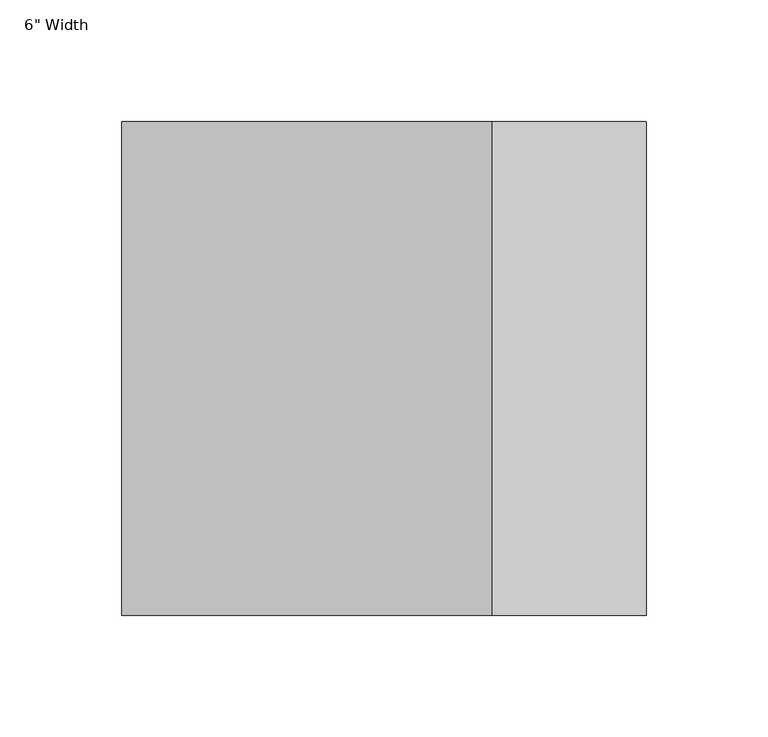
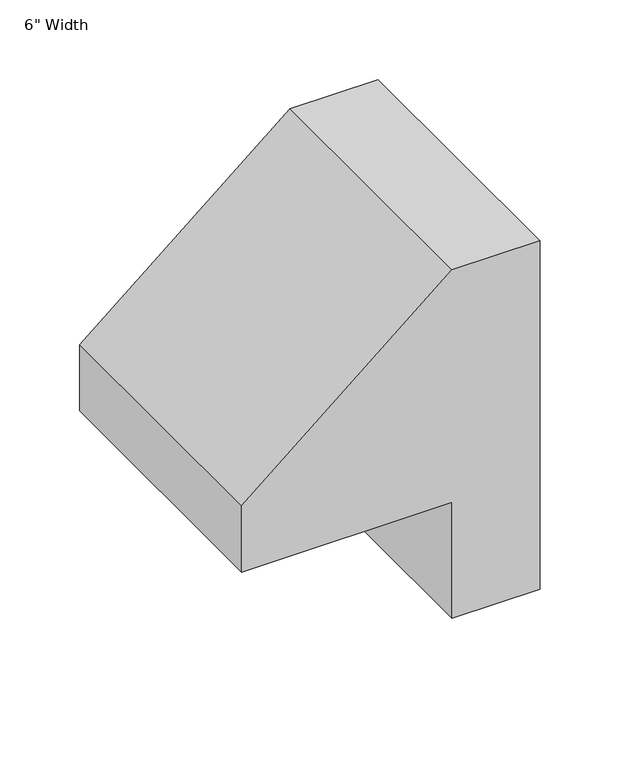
"""IFC4 building model written with IfcOpenShell, lengths in millimetres: proxy geometry."""

from ifc_helpers import new_model, si_unit, frame, origin, place, context, project, spatial, polyline, outline, extrude, source, transform, mapped, element, save


def proxy_f84e95d0(model_context):
    return source(origin(), model_context, "Body", "SweptSolid", [
        extrude(outline(polyline([(-88.9, 76.2), (-88.9, 139.7), (177.8, 139.7), (177.8, 76.2), (50.8, -76.2), (0.0, -76.2), (0.0, 76.2), (-88.9, 76.2)])), frame((0.0, -101.6, 0.0), z_axis=(0.0, 1.0, 0.0), x_axis=(0.0, 0.0, 1.0)), (0.0, 0.0, 1.0), 203.2),
    ])


if __name__ == "__main__":
    model = new_model("IFC4")
    model_context = context("Model", 3, world=origin())
    ifc_project = project(units=[si_unit("LENGTHUNIT", "METRE", prefix="MILLI")], contexts=[model_context])
    site = spatial("IfcSite", under=ifc_project)
    building = spatial("IfcBuilding", under=site)
    placement = place(None, origin())
    proxy_shape = proxy_f84e95d0(model_context)
    element("IfcBuildingElementProxy", 1, Name="Cabinet_Connector-Wallduct-Wiremold : 6\" Width", ObjectType="Cabinet_Connector-Wallduct-Wiremold : 6\" Width", at=placement, inside=building, context=model_context, shape_type="MappedRepresentation", body=[
        mapped(proxy_shape, transform((0.0, 0.0, 0.0), x_axis=(1.0, 0.0, 0.0), y_axis=(0.0, 1.0, 0.0), z_axis=(0.0, 0.0, 1.0))),
    ])
    save(model, "model.ifc")
